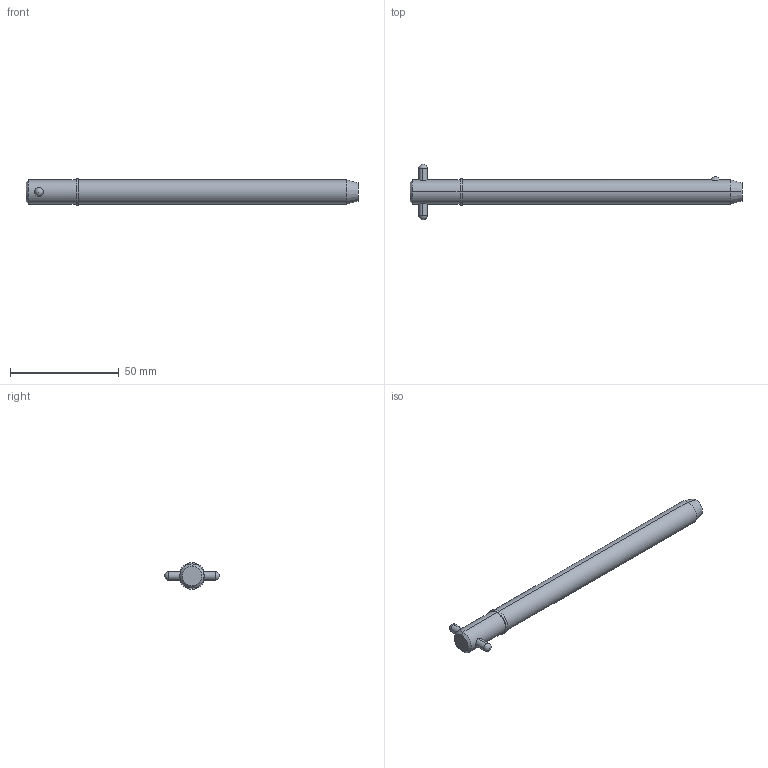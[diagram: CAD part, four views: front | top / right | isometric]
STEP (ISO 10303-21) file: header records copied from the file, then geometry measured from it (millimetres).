
FILE_DESCRIPTION (( 'STEP AP203' ), '1' );
FILE_NAME ('33018.W4345.step', '2024-11-19T17:13:40', ( '' ), ( '' ), 'SwSTEP 2.0', 'SolidWorks 2019', '' );
FILE_SCHEMA (( 'CONFIG_CONTROL_DESIGN' ));
Length unit declared in the file: millimetre
Products named in the file (3): 33018.W4345; Part2_33018.W4345; Part1_33018.W4345
Assembly tree (2 placements, depth 2):
  33018.W4345
    Part1_33018.W4345
    Part2_33018.W4345
Bounding box: 152.7 x 25.4 x 12.22 mm (x, y, z)
Volume: 14864.5 mm3; surface area: 5917.8 mm2
Topology: 2 solids, 2 shells, 22 faces, 47 edges, 30 vertices
Faces by surface type: cylinder 10, sphere 4, cone 4, plane 4
Entity records: 1031 total; most frequent: CARTESIAN_POINT 274, DIRECTION 110, ORIENTED_EDGE 82, AXIS2_PLACEMENT_3D 48, EDGE_CURVE 41, EDGE_LOOP 27, PERSON_AND_ORGANIZATION 26, VERTEX_POINT 26
